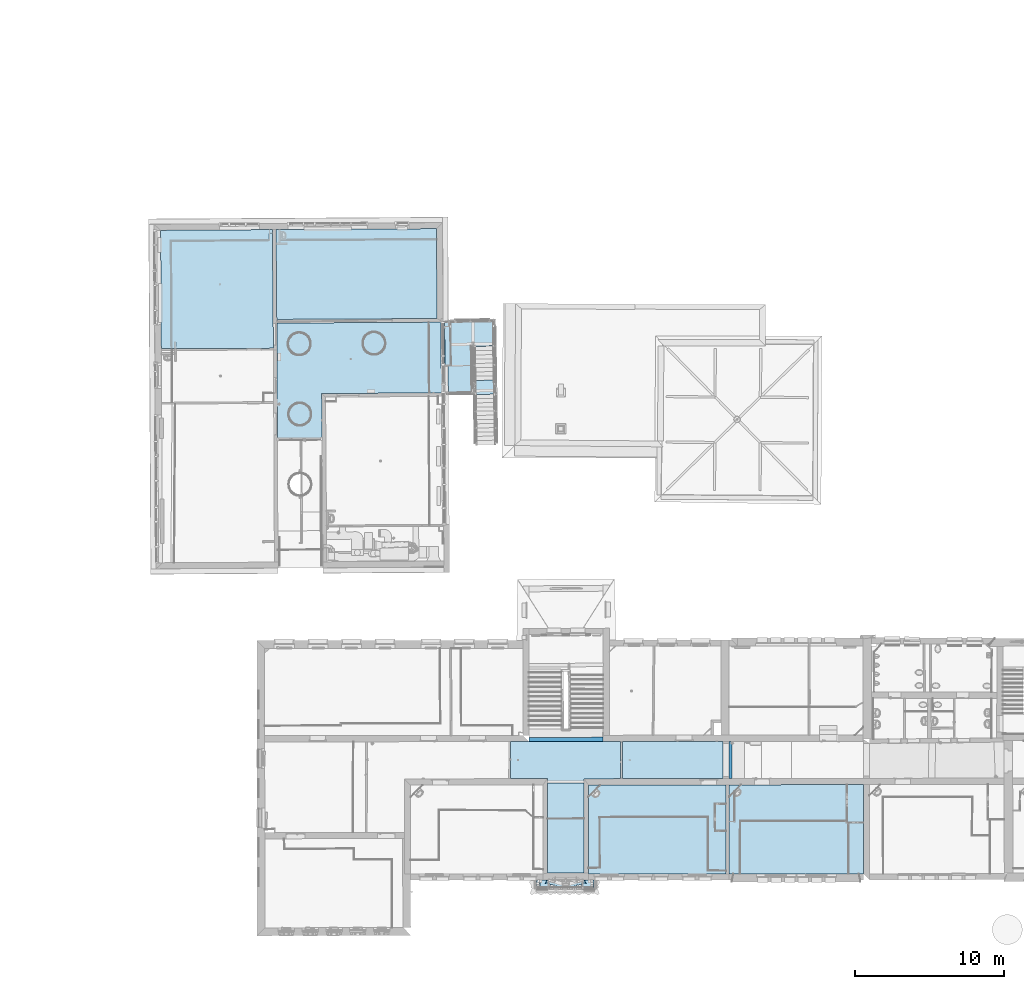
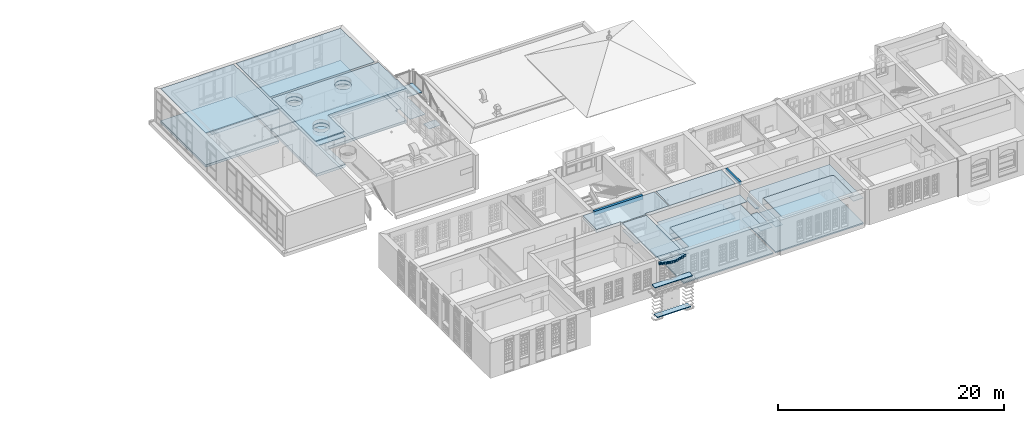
# One storey, part 11 of 158: 29 slabs.
"""IFC2X3 building model written with IfcOpenShell, lengths in metres."""

from ifc_helpers import new_model, entity, si_unit, converted_unit, derived_unit, money_unit, point, direction, frame, frame_2d, origin_with_axes, place, context, subcontext, project, spatial, polyline, circle_curve, parameter, trimmed, segment, composite_curve, outline, extrude, material, layer, layer_set, layer_usage, type_object, element, save


model = new_model("IFC2X3")

# Units and contexts
model_context = context("Model", 3, precision=1e-05, world=origin_with_axes(), true_north=direction((0.0, 1.0)))
body_context = subcontext(model_context, "Body", "Model", "MODEL_VIEW")
ifc_project = project(units=[si_unit("LENGTHUNIT", "METRE"), si_unit("AREAUNIT", "SQUARE_METRE"), si_unit("VOLUMEUNIT", "CUBIC_METRE"), converted_unit("PLANEANGLEUNIT", "DEGREE", entity("IfcPlaneAngleMeasure", 0.0174532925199), si_unit("PLANEANGLEUNIT", "RADIAN"), dimensions=[0, 0, 0, 0, 0, 0, 0]), money_unit("EUR"), converted_unit("TIMEUNIT", "Year", entity("IfcTimeMeasure", 31556926.0), si_unit("TIMEUNIT", "SECOND"), dimensions=[0, 0, 1, 0, 0, 0, 0]), si_unit("MASSUNIT", "GRAM", prefix="KILO"), si_unit("THERMODYNAMICTEMPERATUREUNIT", "DEGREE_CELSIUS"), si_unit("LUMINOUSINTENSITYUNIT", "LUMEN"), si_unit("ENERGYUNIT", "JOULE", prefix="MEGA"), derived_unit("THERMALCONDUCTANCEUNIT", [(si_unit("POWERUNIT", "WATT"), 1), (si_unit("LENGTHUNIT", "METRE"), -1), (si_unit("THERMODYNAMICTEMPERATUREUNIT", "KELVIN"), -1)]), derived_unit("SPECIFICHEATCAPACITYUNIT", [(si_unit("ENERGYUNIT", "JOULE"), 1), (si_unit("MASSUNIT", "GRAM", prefix="KILO"), -1), (si_unit("THERMODYNAMICTEMPERATUREUNIT", "KELVIN"), -1)]), derived_unit("MASSDENSITYUNIT", [(si_unit("MASSUNIT", "GRAM", prefix="KILO"), 1), (si_unit("VOLUMEUNIT", "CUBIC_METRE"), -1)])], contexts=[model_context])

# Site, building, storey
site_placement = place(None, origin_with_axes())
site = spatial("IfcSite", under=ifc_project, at=site_placement, Name="Gelände", CompositionType="ELEMENT")
building_placement = place(site_placement, origin_with_axes())
building = spatial("IfcBuilding", under=site, at=building_placement, Name="Gebäude", CompositionType="ELEMENT")
storey_placement = place(building_placement, origin_with_axes())
storey = spatial("IfcBuildingStorey", under=building, at=storey_placement, Name="ERDGESCHOSS", CompositionType="ELEMENT", Elevation=0.0)

# Slabs
ifc_material_1 = material(Name="05_ALLGEMEIN - TRAGENDE BAUTEILE")
ifc_layer_1 = layer(ifc_material_1, 0.26, ventilated="UNKNOWN")
ifc_layer_set_1 = layer_set([ifc_layer_1], Name="05_ALLGEMEIN - TRAGENDE BAUTEILE 0.26")
ifc_layer_usage_1 = layer_usage(ifc_layer_set_1, "AXIS3", "NEGATIVE", 0.26)
slab_type_1 = type_object("IfcSlabType", Name="05_ALLGEMEIN - TRAGENDE BAUTEILE 260", PredefinedType="NOTDEFINED")
slab_1_placement = place(storey_placement, frame((-26.9582901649, 45.612280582, 1.32), z_axis=(0.0, 0.0, 1.0), x_axis=(1.0, 0.0, 0.0)))
element("IfcSlab", 1, at=slab_1_placement, inside=storey, type_object=slab_type_1, material=ifc_layer_usage_1, Name="Belag-006", PredefinedType="NOTDEFINED", context=body_context, shape_type="SweptSolid", body=[
    extrude(outline(polyline([(0.0, 0.0), (-0.0700644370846, 7.94403693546), (-7.55929296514, 7.89979306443), (-7.51277816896, -0.0313616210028), (0.0, 0.0)])), frame((0.0, 0.0, -0.26), z_axis=(0.0, 0.0, 1.0), x_axis=(1.0, 0.0, 0.0)), (0.0, 0.0, 1.0), 0.26),
])
ifc_layer_usage_2 = layer_usage(ifc_layer_set_1, "AXIS3", "NEGATIVE", 0.26)
slab_2_placement = place(storey_placement, frame((-26.7883577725, 53.5577353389, 1.32), z_axis=(0.0, 0.0, 1.0), x_axis=(1.0, 0.0, 0.0)))
element("IfcSlab", 2, at=slab_2_placement, inside=storey, type_object=slab_type_1, material=ifc_layer_usage_2, Name="Belag-006", PredefinedType="NOTDEFINED", context=body_context, shape_type="SweptSolid", body=[
    extrude(outline(polyline([(0.0, 0.0), (0.0535530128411, -6.07194076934), (7.78016718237, -6.01395359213), (7.77981222, -5.96665594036), (10.7837569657, -5.94965336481), (10.7555178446, 0.0635400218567), (0.0, 0.0)])), frame((0.0, 0.0, -0.26), z_axis=(0.0, 0.0, 1.0), x_axis=(1.0, 0.0, 0.0)), (0.0, 0.0, 1.0), 0.26),
])
ifc_layer_2 = layer(ifc_material_1, 0.03, ventilated="UNKNOWN")
ifc_layer_set_2 = layer_set([ifc_layer_2], Name="05_ALLGEMEIN - TRAGENDE BAUTEILE 0.03")
ifc_layer_usage_3 = layer_usage(ifc_layer_set_2, "AXIS3", "NEGATIVE", 0.03)
slab_type_2 = type_object("IfcSlabType", Name="05_ALLGEMEIN - TRAGENDE BAUTEILE 30", PredefinedType="NOTDEFINED")
slab_3_placement = place(storey_placement, frame((3.55648795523, 15.5505114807, 2.415), z_axis=(0.0, 0.0, 1.0), x_axis=(1.0, 0.0, 0.0)))
element("IfcSlab", 3, at=slab_3_placement, inside=storey, type_object=slab_type_2, material=ifc_layer_usage_3, Name="Belag-004", PredefinedType="NOTDEFINED", context=body_context, shape_type="SweptSolid", body=[
    extrude(outline(polyline([(0.0, 0.0), (-0.000408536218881, -1.64056563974), (0.382779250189, -1.64639142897), (0.376906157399, 0.378152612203), (0.0, 0.0)])), origin_with_axes(), (0.0, 0.0, 1.0), 0.03),
])
ifc_material_2 = material(Name="01_ALLGEMEIN - BAUTEIL")
ifc_layer_3 = layer(ifc_material_2, 0.05, ventilated="UNKNOWN")
ifc_layer_set_3 = layer_set([ifc_layer_3], Name="01_ALLGEMEIN - BAUTEIL 0.05")
ifc_layer_usage_4 = layer_usage(ifc_layer_set_3, "AXIS3", "NEGATIVE", 0.05)
slab_type_3 = type_object("IfcSlabType", Name="01_ALLGEMEIN - BAUTEIL 50", PredefinedType="NOTDEFINED")
slab_4_placement = place(storey_placement, frame((3.55520900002, 10.4145794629, 2.575), z_axis=(0.0, 0.0, 1.0), x_axis=(1.0, 0.0, 0.0)))
element("IfcSlab", 4, at=slab_4_placement, inside=storey, type_object=slab_type_3, material=ifc_layer_usage_4, Name="Belag-004", PredefinedType="NOTDEFINED", context=body_context, shape_type="SweptSolid", body=[
    extrude(outline(polyline([(0.0, 0.0), (0.29154492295, 2.18655204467e-05), (0.291544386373, -0.00018927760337), (0.753305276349, -0.000269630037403), (0.767418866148, 3.53286002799), (7.74479993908, 3.52988698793), (7.982647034, 3.31705834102), (7.97536165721, -0.00152642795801), (8.70299734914, -0.00165306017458), (8.70299734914, -0.0014114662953), (9.00226281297, -0.0012187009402), (8.99681333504, 5.97013152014), (0.819550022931, 5.95690918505), (0.378185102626, 5.51408464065), (0.384058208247, 3.4895405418), (0.000870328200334, 3.49536642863), (0.0, 0.0)])), origin_with_axes(), (0.0, 0.0, 1.0), 0.05),
])
ifc_layer_usage_5 = layer_usage(ifc_layer_set_3, "AXIS3", "NEGATIVE", 0.05)
slab_5_placement = place(storey_placement, frame((4.30851428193, 10.4143098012, 3.3), z_axis=(0.0, 0.0, 1.0), x_axis=(1.0, 0.0, 0.0)))
element("IfcSlab", 5, at=slab_5_placement, inside=storey, type_object=slab_type_3, material=ifc_layer_usage_5, Name="Belag-004", PredefinedType="NOTDEFINED", context=body_context, shape_type="SweptSolid", body=[
    extrude(outline(polyline([(0.0, 0.0), (7.22205640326, -0.00125677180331), (7.22934173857, 3.31732800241), (6.99149469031, 3.53015664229), (0.0141135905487, 3.53312971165), (0.0, 0.0)])), origin_with_axes(), (0.0, 0.0, 1.0), 0.05),
])
ifc_layer_usage_6 = layer_usage(ifc_layer_set_3, "AXIS3", "NEGATIVE", 0.05)
slab_6_placement = place(storey_placement, frame((-8.61574632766, 16.5072639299, 2.82), z_axis=(0.0, 0.0, 1.0), x_axis=(1.0, 0.0, 0.0)))
element("IfcSlab", 6, at=slab_6_placement, inside=storey, type_object=slab_type_3, material=ifc_layer_usage_6, Name="Belag-004", PredefinedType="NOTDEFINED", context=body_context, shape_type="SweptSolid", body=[
    extrude(outline(polyline([(0.0, 0.0), (0.0019458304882, -2.42468858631), (2.46810341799, -2.42061220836), (2.46767440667, 0.000832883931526), (0.0, 0.0)])), origin_with_axes(), (0.0, 0.0, 1.0), 0.05),
])
ifc_layer_usage_7 = layer_usage(ifc_layer_set_3, "AXIS3", "NEGATIVE", 0.05)
slab_7_placement = place(storey_placement, frame((-5.0897370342, 14.1854308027, 3.26), z_axis=(0.0, 0.0, 1.0), x_axis=(1.0, 0.0, 0.0)))
element("IfcSlab", 7, at=slab_7_placement, inside=storey, type_object=slab_type_3, material=ifc_layer_usage_7, Name="Belag-004", PredefinedType="NOTDEFINED", context=body_context, shape_type="SweptSolid", body=[
    extrude(outline(polyline([(0.0, 0.0), (0.00498205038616, -3.38054457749), (-0.7673213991, -3.39768137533), (-0.767251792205, -3.79055976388), (8.44494129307, -3.78986643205), (8.44499182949, -3.58691805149), (7.22351465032, -3.57670339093), (7.22673385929, 0.00363332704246), (0.0, 0.0)])), origin_with_axes(), (0.0, 0.0, 1.0), 0.05),
])
ifc_layer_usage_8 = layer_usage(ifc_layer_set_3, "AXIS3", "NEGATIVE", 0.05)
slab_8_placement = place(storey_placement, frame((-5.05487332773, 16.3562413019, 2.53), z_axis=(0.0, 0.0, 1.0), x_axis=(1.0, 0.0, 0.0)))
element("IfcSlab", 8, at=slab_8_placement, inside=storey, type_object=slab_type_3, material=ifc_layer_usage_8, Name="Belag-004", PredefinedType="NOTDEFINED", context=body_context, shape_type="SweptSolid", body=[
    extrude(outline(polyline([(0.0, 0.0), (-0.803027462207, -0.814024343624), (-0.802185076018, -5.568491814), (-0.0298817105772, -5.55135505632), (-0.0348636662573, -2.17081053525), (7.19187009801, -2.16717722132), (7.1886509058, -5.74751391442), (8.41012818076, -5.75772855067), (8.41079234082, -3.09045541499), (7.67233505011, -3.10463922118), (7.66265646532, -1.24125117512), (8.41125314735, -1.23975588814), (8.41156524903, 0.0136012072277), (0.0, 0.0)])), origin_with_axes(), (0.0, 0.0, 1.0), 0.05),
])
ifc_layer_usage_9 = layer_usage(ifc_layer_set_3, "AXIS3", "NEGATIVE", 0.05)
slab_9_placement = place(storey_placement, frame((-33.8289176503, 52.7972375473, 4.325), z_axis=(0.0, 0.0, 1.0), x_axis=(1.0, 0.0, 0.0)))
element("IfcSlab", 9, at=slab_9_placement, inside=storey, type_object=slab_type_3, material=ifc_layer_usage_9, Name="Belag-004", PredefinedType="NOTDEFINED", context=body_context, shape_type="SweptSolid", body=[
    extrude(outline(polyline([(0.0, 0.0), (0.0442676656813, -7.21345317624), (0.241467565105, -7.21262998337), (0.235151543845, -6.76741268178), (0.340141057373, -6.76592317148), (0.346471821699, -7.21219160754), (6.87062749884, -7.1849570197), (6.80270562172, 0.516151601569), (6.58159707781, 0.508952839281), (6.57646925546, 0.0609441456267), (0.0, 0.0)])), origin_with_axes(), (0.0, 0.0, 1.0), 0.05),
])
ifc_layer_usage_10 = layer_usage(ifc_layer_set_3, "AXIS3", "NEGATIVE", 0.05)
slab_10_placement = place(storey_placement, frame((-26.7795419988, 52.5581865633, 4.335), z_axis=(0.0, 0.0, 1.0), x_axis=(1.0, 0.0, 0.0)))
element("IfcSlab", 10, at=slab_10_placement, inside=storey, type_object=slab_type_3, material=ifc_layer_usage_10, Name="Belag-004", PredefinedType="NOTDEFINED", context=body_context, shape_type="SweptSolid", body=[
    extrude(outline(polyline([(0.0, 0.0), (0.0441944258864, -5.01084153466), (10.774941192, -4.9501045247), (10.7500018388, 0.360436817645), (0.271699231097, 0.300712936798), (0.270704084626, 0.103987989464), (0.737544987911, 0.102241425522), (0.737152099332, -0.00275792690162), (0.0, 0.0)])), origin_with_axes(), (0.0, 0.0, 1.0), 0.05),
])
ifc_layer_usage_11 = layer_usage(ifc_layer_set_3, "AXIS3", "NEGATIVE", 0.05)
slab_11_placement = place(storey_placement, frame((-16.5401608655, 47.3550466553, 4.335), z_axis=(0.0, 0.0, 1.0), x_axis=(1.0, 0.0, 0.0)))
element("IfcSlab", 11, at=slab_11_placement, inside=storey, type_object=slab_type_3, material=ifc_layer_usage_11, Name="Belag-004", PredefinedType="NOTDEFINED", context=body_context, shape_type="SweptSolid", body=[
    extrude(outline(polyline([(0.0, 0.0), (-10.1929818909, -0.0576931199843), (-10.150307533, -7.93562496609), (-7.16169094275, -7.91724332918), (-7.18476073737, -4.78410736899), (0.0357691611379, -4.73388693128), (0.0, 0.0)]), holes=[composite_curve([segment(trimmed(circle_curve(frame_2d((-8.68273641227, -1.45261230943), x_axis=(1.0, 0.0)), 0.742022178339), [point((-9.42475859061, -1.45261230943)), parameter(180.0)], [point((-7.94071423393, -1.45261230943)), parameter(0.0)], False, "CARTESIAN"), True, "CONTINUOUS"), segment(trimmed(circle_curve(frame_2d((-8.68273641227, -1.45261230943), x_axis=(-1.0, 0.0)), 0.742022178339), [point((-7.94071423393, -1.45261230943)), parameter(180.0)], [point((-9.42475859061, -1.45261230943)), parameter(0.0)], False, "CARTESIAN"), True, "CONTINUOUS")], self_intersect=False), composite_curve([segment(trimmed(circle_curve(frame_2d((-8.64550168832, -6.16345421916), x_axis=(1.0, 0.0)), 0.742621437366), [point((-9.38812312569, -6.16345421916)), parameter(180.0)], [point((-7.90288025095, -6.16345421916)), parameter(0.0)], False, "CARTESIAN"), True, "CONTINUOUS"), segment(trimmed(circle_curve(frame_2d((-8.64550168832, -6.16345421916), x_axis=(-1.0, 0.0)), 0.742621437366), [point((-7.90288025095, -6.16345421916)), parameter(180.0)], [point((-9.38812312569, -6.16345421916)), parameter(0.0)], False, "CARTESIAN"), True, "CONTINUOUS")], self_intersect=False), composite_curve([segment(trimmed(circle_curve(frame_2d((-3.67712122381, -1.41695231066), x_axis=(1.0, 0.0)), 0.742305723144), [point((-4.41942694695, -1.41695231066)), parameter(180.0)], [point((-2.93481550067, -1.41695231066)), parameter(0.0)], False, "CARTESIAN"), True, "CONTINUOUS"), segment(trimmed(circle_curve(frame_2d((-3.67712122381, -1.41695231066), x_axis=(-1.0, 0.0)), 0.742305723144), [point((-2.93481550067, -1.41695231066)), parameter(180.0)], [point((-4.41942694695, -1.41695231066)), parameter(0.0)], False, "CARTESIAN"), True, "CONTINUOUS")], self_intersect=False)]), origin_with_axes(), (0.0, 0.0, 1.0), 0.05),
])
ifc_layer_4 = layer(ifc_material_1, 0.32, ventilated="UNKNOWN")
ifc_layer_set_4 = layer_set([ifc_layer_4], Name="05_ALLGEMEIN - TRAGENDE BAUTEILE 0.32")
ifc_layer_usage_12 = layer_usage(ifc_layer_set_4, "AXIS3", "NEGATIVE", 0.32)
slab_type_4 = type_object("IfcSlabType", Name="05_ALLGEMEIN - TRAGENDE BAUTEILE 320", PredefinedType="NOTDEFINED")
slab_12_placement = place(storey_placement, frame((-3.58523431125, 16.7786181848, 3.28), z_axis=(0.0, 0.0, 1.0), x_axis=(1.0, 0.0, 0.0)))
element("IfcSlab", 12, at=slab_12_placement, inside=storey, type_object=slab_type_4, material=ifc_layer_usage_12, Name="Belag-004", PredefinedType="NOTDEFINED", context=body_context, shape_type="SweptSolid", body=[
    extrude(outline(polyline([(0.0, 0.0), (6.7278867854, 0.0108786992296), (6.72387414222, 2.49984492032), (0.0167055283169, 2.49789228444), (0.0, 0.0)])), origin_with_axes(), (0.0, 0.0, 1.0), 0.32),
])
ifc_layer_usage_13 = layer_usage(ifc_layer_set_4, "AXIS3", "NEGATIVE", 0.32)
slab_13_placement = place(storey_placement, frame((3.76448366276, 19.2786453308, 3.28), z_axis=(0.0, 0.0, 1.0), x_axis=(1.0, 0.0, 0.0)))
element("IfcSlab", 13, at=slab_13_placement, inside=storey, type_object=slab_type_4, material=ifc_layer_usage_13, Name="Belag-005", PredefinedType="NOTDEFINED", context=body_context, shape_type="SweptSolid", body=[
    extrude(outline(polyline([(0.0, 0.0), (-0.20229089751, -5.88846787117e-05), (-0.198279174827, -2.4884635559), (0.000731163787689, -2.48814176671), (0.0, 0.0)])), origin_with_axes(), (0.0, 0.0, 1.0), 0.32),
])
ifc_layer_5 = layer(ifc_material_1, 0.09, ventilated="UNKNOWN")
ifc_layer_set_5 = layer_set([ifc_layer_5], Name="05_ALLGEMEIN - TRAGENDE BAUTEILE 0.09")
ifc_layer_usage_14 = layer_usage(ifc_layer_set_5, "AXIS3", "NEGATIVE", 0.09)
slab_type_5 = type_object("IfcSlabType", Name="05_ALLGEMEIN - TRAGENDE BAUTEILE 90", PredefinedType="NOTDEFINED")
slab_14_placement = place(storey_placement, frame((-26.9582901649, 45.612280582, 4.71), z_axis=(0.0, 0.0, 1.0), x_axis=(1.0, 0.0, 0.0)))
element("IfcSlab", 14, at=slab_14_placement, inside=storey, type_object=slab_type_5, material=ifc_layer_usage_14, Name="Belag-004", PredefinedType="NOTDEFINED", context=body_context, shape_type="SweptSolid", body=[
    extrude(outline(polyline([(0.0, 0.0), (-0.0700644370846, 7.94403693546), (-7.55929296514, 7.89979306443), (-7.51277816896, -0.0313616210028), (0.0, 0.0)])), origin_with_axes(), (0.0, 0.0, 1.0), 0.09),
])
ifc_layer_usage_15 = layer_usage(ifc_layer_set_5, "AXIS3", "NEGATIVE", 0.09)
slab_15_placement = place(storey_placement, frame((-9.11592115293, 9.9946257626, -2.1), z_axis=(0.0, 0.0, 1.0), x_axis=(1.0, 0.0, 0.0)))
element("IfcSlab", 15, at=slab_15_placement, inside=storey, type_object=slab_type_5, material=ifc_layer_usage_15, Name="Belag-015", PredefinedType="NOTDEFINED", context=body_context, shape_type="SweptSolid", body=[
    extrude(outline(polyline([(0.0, 0.0), (0.00278726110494, -0.586234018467), (3.4474921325, -0.597278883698), (3.43980705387, 0.000258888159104), (0.0, 0.0)])), frame((0.0, 0.0, -0.09), z_axis=(0.0, 0.0, 1.0), x_axis=(1.0, 0.0, 0.0)), (0.0, 0.0, 1.0), 0.09),
])
ifc_layer_6 = layer(ifc_material_1, 0.250000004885, ventilated="UNKNOWN")
ifc_layer_set_6 = layer_set([ifc_layer_6], Name="05_ALLGEMEIN - TRAGENDE BAUTEILE 0.25")
ifc_layer_usage_16 = layer_usage(ifc_layer_set_6, "AXIS3", "NEGATIVE", 0.25)
slab_type_6 = type_object("IfcSlabType", Name="05_ALLGEMEIN - TRAGENDE BAUTEILE 250", PredefinedType="NOTDEFINED")
slab_16_placement = place(storey_placement, frame((-8.76854401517, 9.76915901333, 3.1571805), z_axis=(0.0, 0.0, 1.0), x_axis=(1.0, 0.0, 0.0)))
element("IfcSlab", 16, at=slab_16_placement, inside=storey, type_object=slab_type_6, material=ifc_layer_usage_16, Name="Belag-013", PredefinedType="NOTDEFINED", context=body_context, shape_type="SweptSolid", body=[
    extrude(outline(polyline([(0.0, 0.0), (0.166645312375, 0.0243361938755), (0.215871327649, -0.0222883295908), (0.310965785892, -0.0218137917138), (0.338152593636, -0.139180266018), (0.451860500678, -0.0610586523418), (0.533807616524, -0.12720175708), (0.649562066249, -0.118963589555), (0.674736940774, -0.248625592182), (0.768898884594, -0.14934871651), (0.841410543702, -0.214574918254), (0.948902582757, -0.199084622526), (0.976399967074, -0.314665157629), (1.09803166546, -0.236637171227), (1.21144502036, -0.307197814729), (1.3300250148, -0.266102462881), (1.38579928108, -0.382553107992), (1.44157354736, -0.266102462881), (1.5601535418, -0.307197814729), (1.6735668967, -0.236637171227), (1.79519859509, -0.314665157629), (1.8226959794, -0.199084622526), (1.93018801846, -0.214574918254), (2.00269967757, -0.14934871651), (2.09686162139, -0.248625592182), (2.12203649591, -0.118963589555), (2.23779094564, -0.12720175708), (2.31973806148, -0.0610586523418), (2.43344596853, -0.139180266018), (2.46063277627, -0.0218137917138), (2.55572723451, -0.0222883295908), (2.60495324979, 0.0243361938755), (2.77159856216, 0.0), (2.68142277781, 0.125351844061), (2.68776328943, 0.206279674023), (0.0838352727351, 0.206279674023), (0.0901757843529, 0.125351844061), (0.0, 0.0)])), origin_with_axes(), (0.0, 0.0, 1.0), 0.25),
])
ifc_layer_7 = layer(ifc_material_1, 0.14, ventilated="UNKNOWN")
ifc_layer_set_7 = layer_set([ifc_layer_7], Name="05_ALLGEMEIN - TRAGENDE BAUTEILE 0.14")
ifc_layer_usage_17 = layer_usage(ifc_layer_set_7, "AXIS3", "NEGATIVE", 0.14)
slab_type_7 = type_object("IfcSlabType", Name="05_ALLGEMEIN - TRAGENDE BAUTEILE 140", PredefinedType="NOTDEFINED")
slab_17_placement = place(storey_placement, frame((3.55520896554, 10.4144409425, -0.07), z_axis=(0.0, 0.0, 1.0), x_axis=(1.0, 0.0, 0.0)))
element("IfcSlab", 17, at=slab_17_placement, inside=storey, type_object=slab_type_7, material=ifc_layer_usage_17, Name="Belag-003", PredefinedType="NOTDEFINED", context=body_context, shape_type="SweptSolid", body=[
    extrude(outline(polyline([(0.0, 0.0), (9.00226329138, -0.0015666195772), (8.99681342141, 5.97027005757), (0.00148304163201, 5.95572484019), (0.0, 0.0)])), frame((0.0, 0.0, -0.14), z_axis=(0.0, 0.0, 1.0), x_axis=(1.0, 0.0, 0.0)), (0.0, 0.0, 1.0), 0.14),
])
ifc_layer_8 = layer(ifc_material_1, 0.1, ventilated="UNKNOWN")
ifc_layer_set_8 = layer_set([ifc_layer_8], Name="05_ALLGEMEIN - TRAGENDE BAUTEILE 0.1")
ifc_layer_usage_18 = layer_usage(ifc_layer_set_8, "AXIS3", "NEGATIVE", 0.1)
slab_type_8 = type_object("IfcSlabType", Name="05_ALLGEMEIN - TRAGENDE BAUTEILE 100", PredefinedType="NOTDEFINED")
slab_18_placement = place(storey_placement, frame((-26.7883577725, 53.557735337, 4.7), z_axis=(0.0, 0.0, 1.0), x_axis=(1.0, 0.0, 0.0)))
element("IfcSlab", 18, at=slab_18_placement, inside=storey, type_object=slab_type_8, material=ifc_layer_usage_18, Name="Belag-004", PredefinedType="NOTDEFINED", context=body_context, shape_type="SweptSolid", body=[
    extrude(outline(polyline([(0.0, 0.0), (0.0530100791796, -6.01039030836), (10.7837569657, -5.94965341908), (10.7555178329, 0.06353997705), (0.0, 0.0)])), origin_with_axes(), (0.0, 0.0, 1.0), 0.1),
])
ifc_layer_9 = layer(ifc_material_1, 0.13, ventilated="UNKNOWN")
ifc_layer_set_9 = layer_set([ifc_layer_9], Name="05_ALLGEMEIN - TRAGENDE BAUTEILE 0.13")
ifc_layer_usage_19 = layer_usage(ifc_layer_set_9, "AXIS3", "NEGATIVE", 0.13)
slab_type_9 = type_object("IfcSlabType", Name="05_ALLGEMEIN - TRAGENDE BAUTEILE 130", PredefinedType="NOTDEFINED")
slab_19_placement = place(storey_placement, frame((-5.85804478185, 16.3549425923, -0.08), z_axis=(0.0, 0.0, 1.0), x_axis=(1.0, 0.0, 0.0)))
element("IfcSlab", 19, at=slab_19_placement, inside=storey, type_object=slab_type_9, material=ifc_layer_usage_19, Name="Belag-003", PredefinedType="NOTDEFINED", context=body_context, shape_type="SweptSolid", body=[
    extrude(outline(polyline([(0.0, 0.0), (0.00105595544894, -5.9600715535), (9.21324904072, -5.95937822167), (9.21473670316, 0.0148998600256), (0.0, 0.0)])), frame((0.0, 0.0, -0.13), z_axis=(0.0, 0.0, 1.0), x_axis=(1.0, 0.0, 0.0)), (0.0, 0.0, 1.0), 0.13),
])
ifc_layer_10 = layer(ifc_material_1, 0.11, ventilated="UNKNOWN")
ifc_layer_set_10 = layer_set([ifc_layer_10], Name="05_ALLGEMEIN - TRAGENDE BAUTEILE 0.11")
ifc_layer_usage_20 = layer_usage(ifc_layer_set_10, "AXIS3", "NEGATIVE", 0.11)
slab_type_10 = type_object("IfcSlabType", Name="05_ALLGEMEIN - TRAGENDE BAUTEILE 110", PredefinedType="NOTDEFINED")
slab_20_placement = place(storey_placement, frame((-3.58523431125, 16.7786181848, -0.1), z_axis=(0.0, 0.0, 1.0), x_axis=(1.0, 0.0, 0.0)))
element("IfcSlab", 20, at=slab_20_placement, inside=storey, type_object=slab_type_10, material=ifc_layer_usage_20, Name="Belag-005", PredefinedType="NOTDEFINED", context=body_context, shape_type="SweptSolid", body=[
    extrude(outline(polyline([(0.0, 0.0), (6.7278867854, 0.0108786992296), (6.72387414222, 2.49984492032), (0.0167055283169, 2.49789228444), (0.0, 0.0)])), frame((0.0, 0.0, -0.11), z_axis=(0.0, 0.0, 1.0), x_axis=(1.0, 0.0, 0.0)), (0.0, 0.0, 1.0), 0.11),
])
ifc_layer_11 = layer(ifc_material_1, 0.39, ventilated="UNKNOWN")
ifc_layer_set_11 = layer_set([ifc_layer_11], Name="05_ALLGEMEIN - TRAGENDE BAUTEILE 0.39")
ifc_layer_usage_21 = layer_usage(ifc_layer_set_11, "AXIS3", "NEGATIVE", 0.39)
slab_type_11 = type_object("IfcSlabType", Name="05_ALLGEMEIN - TRAGENDE BAUTEILE 390", PredefinedType="NOTDEFINED")
slab_21_placement = place(storey_placement, frame((-9.84150632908, 19.5347093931, 3.21), z_axis=(0.0, 0.0, 1.0), x_axis=(1.0, 0.0, 0.0)))
element("IfcSlab", 21, at=slab_21_placement, inside=storey, type_object=slab_type_11, material=ifc_layer_usage_21, Name="Belag-004", PredefinedType="NOTDEFINED", context=body_context, shape_type="SweptSolid", body=[
    extrude(outline(polyline([(0.0, 0.0), (2.57273295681e-05, -0.273549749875), (4.96616795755, -0.258579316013), (4.96649424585, 0.0266807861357), (0.0, 0.0)])), origin_with_axes(), (0.0, 0.0, 1.0), 0.39),
])
ifc_layer_12 = layer(ifc_material_1, 0.34, ventilated="UNKNOWN")
ifc_layer_set_12 = layer_set([ifc_layer_12], Name="05_ALLGEMEIN - TRAGENDE BAUTEILE 0.34")
ifc_layer_usage_22 = layer_usage(ifc_layer_set_12, "AXIS3", "NEGATIVE", 0.34)
slab_type_12 = type_object("IfcSlabType", Name="05_ALLGEMEIN - TRAGENDE BAUTEILE 340", PredefinedType="NOTDEFINED")
slab_22_placement = place(storey_placement, frame((-11.0684491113, 19.2604025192, 3.26), z_axis=(0.0, 0.0, 1.0), x_axis=(1.0, 0.0, 0.0)))
element("IfcSlab", 22, at=slab_22_placement, inside=storey, type_object=slab_type_12, material=ifc_layer_usage_22, Name="Belag-004", PredefinedType="NOTDEFINED", context=body_context, shape_type="SweptSolid", body=[
    extrude(outline(polyline([(0.0, 0.0), (-0.0124795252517, -2.47916482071), (2.4524799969, -2.47552520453), (2.45260832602, -2.63543541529), (4.92046662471, -2.63599148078), (4.92032999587, -2.48592841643), (7.35321048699, -2.48199454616), (7.36991717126, 0.0160701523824), (6.18811073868, 0.015726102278), (1.2269685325, 0.000757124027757), (0.0, 0.0)])), origin_with_axes(), (0.0, 0.0, 1.0), 0.34),
])
ifc_layer_13 = layer(ifc_material_1, 0.085, ventilated="UNKNOWN")
ifc_layer_set_13 = layer_set([ifc_layer_13], Name="05_ALLGEMEIN - TRAGENDE BAUTEILE 0.085")
ifc_layer_usage_23 = layer_usage(ifc_layer_set_13, "AXIS3", "NEGATIVE", 0.085)
slab_type_13 = type_object("IfcSlabType", Name="05_ALLGEMEIN - TRAGENDE BAUTEILE 85", PredefinedType="NOTDEFINED")
slab_23_placement = place(storey_placement, frame((-26.7331427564, 47.2973535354, 4.715), z_axis=(0.0, 0.0, 1.0), x_axis=(1.0, 0.0, 0.0)))
element("IfcSlab", 23, at=slab_23_placement, inside=storey, type_object=slab_type_13, material=ifc_layer_usage_23, Name="Belag-004", PredefinedType="NOTDEFINED", context=body_context, shape_type="SweptSolid", body=[
    extrude(outline(polyline([(0.0, 0.0), (0.0417934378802, -7.67793348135), (3.02981835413, -7.65955548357), (3.00822115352, -4.72641424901), (11.1069447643, -4.67008577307), (11.0943552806, -3.03874501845), (11.0117041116, -3.03807991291), (10.9875807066, 0.0621906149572), (0.0, 0.0)]), holes=[composite_curve([segment(trimmed(circle_curve(frame_2d((1.51024547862, -1.39491918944), x_axis=(-1.0, 0.0)), 0.742022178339), [point((2.25226765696, -1.39491918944)), parameter(180.0)], [point((0.768223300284, -1.39491918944)), parameter(0.0)], False, "CARTESIAN"), True, "CONTINUOUS"), segment(trimmed(circle_curve(frame_2d((1.51024547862, -1.39491918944), x_axis=(1.0, 0.0)), 0.742022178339), [point((0.768223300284, -1.39491918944)), parameter(180.0)], [point((2.25226765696, -1.39491918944)), parameter(0.0)], False, "CARTESIAN"), True, "CONTINUOUS")], self_intersect=False), composite_curve([segment(trimmed(circle_curve(frame_2d((1.54748020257, -6.10576109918), x_axis=(1.0, 0.0)), 0.742621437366), [point((0.804858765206, -6.10576109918)), parameter(180.0)], [point((2.29010163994, -6.10576109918)), parameter(0.0)], False, "CARTESIAN"), True, "CONTINUOUS"), segment(trimmed(circle_curve(frame_2d((1.54748020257, -6.10576109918), x_axis=(-1.0, 0.0)), 0.742621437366), [point((2.29010163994, -6.10576109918)), parameter(180.0)], [point((0.804858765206, -6.10576109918)), parameter(0.0)], False, "CARTESIAN"), True, "CONTINUOUS")], self_intersect=False), composite_curve([segment(trimmed(circle_curve(frame_2d((6.51586066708, -1.35925919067), x_axis=(1.0, 0.0)), 0.742305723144), [point((5.77355494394, -1.35925919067)), parameter(180.0)], [point((7.25816639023, -1.35925919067)), parameter(0.0)], False, "CARTESIAN"), True, "CONTINUOUS"), segment(trimmed(circle_curve(frame_2d((6.51586066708, -1.35925919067), x_axis=(-1.0, 0.0)), 0.742305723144), [point((7.25816639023, -1.35925919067)), parameter(180.0)], [point((5.77355494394, -1.35925919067)), parameter(0.0)], False, "CARTESIAN"), True, "CONTINUOUS")], self_intersect=False)]), origin_with_axes(), (0.0, 0.0, 1.0), 0.085),
])
ifc_layer_14 = layer(ifc_material_1, 0.16, ventilated="UNKNOWN")
ifc_layer_set_14 = layer_set([ifc_layer_14], Name="05_ALLGEMEIN - TRAGENDE BAUTEILE 0.16")
ifc_layer_usage_24 = layer_usage(ifc_layer_set_14, "AXIS3", "NEGATIVE", 0.16)
slab_type_14 = type_object("IfcSlabType", Name="05_ALLGEMEIN - TRAGENDE BAUTEILE 160", PredefinedType="NOTDEFINED")
slab_24_placement = place(storey_placement, frame((-6.1480485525, 16.5044110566, 3.44), z_axis=(0.0, 0.0, 1.0), x_axis=(1.0, 0.0, 0.0)))
element("IfcSlab", 24, at=slab_24_placement, inside=storey, type_object=slab_type_14, material=ifc_layer_usage_24, Name="Belag-004", PredefinedType="NOTDEFINED", context=body_context, shape_type="SweptSolid", body=[
    extrude(outline(polyline([(0.0, 0.0), (-2.46769657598, 0.00135858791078), (-2.4628485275, -6.03974728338), (0.00104729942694, -6.03956183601), (0.0, 0.0)])), origin_with_axes(), (0.0, 0.0, 1.0), 0.16),
])
ifc_layer_15 = layer(ifc_material_1, 0.280439, ventilated="UNKNOWN")
ifc_layer_set_15 = layer_set([ifc_layer_15], Name="05_ALLGEMEIN - TRAGENDE BAUTEILE 0.280439")
ifc_layer_usage_25 = layer_usage(ifc_layer_set_15, "AXIS3", "NEGATIVE", 0.280439)
slab_type_15 = type_object("IfcSlabType", Name="05_ALLGEMEIN - TRAGENDE BAUTEILE 280", PredefinedType="NOTDEFINED")
slab_25_placement = place(storey_placement, frame((-19.0077415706, 47.4437822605, 1.340439), z_axis=(0.0, 0.0, 1.0), x_axis=(1.0, 0.0, 0.0)))
element("IfcSlab", 25, at=slab_25_placement, inside=storey, type_object=slab_type_15, material=ifc_layer_usage_25, Name="Belag-006", PredefinedType="NOTDEFINED", context=body_context, shape_type="SweptSolid", body=[
    extrude(outline(polyline([(0.0, 0.0), (-7.72618124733, -0.057983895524), (-7.68272682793, -8.02436057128), (-4.69411023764, -8.00597893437), (-4.71717998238, -4.8728429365), (3.38154357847, -4.81651449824), (3.36895409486, -3.18517374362), (3.28630292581, -3.18450863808), (3.28472883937, -2.98221158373), (3.41791696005, -2.9811807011), (3.41779278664, -2.95473941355), (3.53678674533, -2.95390192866), (3.51465240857, -0.0943061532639), (3.40436839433, -0.0961707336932), (3.40430857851, -0.0834336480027), (0.000610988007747, -0.102698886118), (0.0, 0.0)])), frame((0.0, 0.0, -0.280439), z_axis=(0.0, 0.0, 1.0), x_axis=(1.0, 0.0, 0.0)), (0.0, 0.0, 1.0), 0.280439),
])
ifc_material_3 = material(Name="54_Metall, Edelstahl")
ifc_layer_16 = layer(ifc_material_3, 0.03, ventilated="UNKNOWN")
ifc_layer_set_16 = layer_set([ifc_layer_16], Name="54_Metall, Edelstahl 0.03")
ifc_layer_usage_26 = layer_usage(ifc_layer_set_16, "AXIS3", "NEGATIVE", 0.03)
slab_type_16 = type_object("IfcSlabType", Name="54_Metall, Edelstahl 30", PredefinedType="NOTDEFINED")
slab_26_placement = place(storey_placement, frame((-13.4089579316, 43.4571891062, -0.3), z_axis=(0.0, 0.0, 1.0), x_axis=(1.0, 0.0, 0.0)))
element("IfcSlab", 26, at=slab_26_placement, inside=storey, type_object=slab_type_16, material=ifc_layer_usage_26, Name="Belag-006", PredefinedType="NOTDEFINED", context=body_context, shape_type="SweptSolid", body=[
    extrude(outline(polyline([(0.0, 0.0), (0.0178550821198, -0.944697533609), (1.23763723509, -0.921643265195), (1.21978215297, 0.0230542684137), (0.0, 0.0)])), frame((0.0, 0.0, -0.03), z_axis=(0.0, 0.0, 1.0), x_axis=(1.0, 0.0, 0.0)), (0.0, 0.0, 1.0), 0.03),
])
ifc_layer_usage_27 = layer_usage(ifc_layer_set_16, "AXIS3", "NEGATIVE", 0.03)
slab_27_placement = place(storey_placement, frame((-15.0988230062, 47.3561419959, 1.315), z_axis=(0.0, 0.0, 1.0), x_axis=(1.0, 0.0, 0.0)))
element("IfcSlab", 27, at=slab_27_placement, inside=storey, type_object=slab_type_16, material=ifc_layer_usage_27, Name="Belag-006", PredefinedType="NOTDEFINED", context=body_context, shape_type="SweptSolid", body=[
    extrude(outline(polyline([(0.0, 0.0), (0.0227835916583, -2.88201895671), (-0.161606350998, -2.88347206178), (-0.147454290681, -4.7164349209), (1.41270693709, -4.69426146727), (1.36836397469, -1.57421657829), (1.60818013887, -1.57139284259), (1.60818013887, -1.62538864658), (2.86101043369, -1.60715957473), (2.86101043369, 0.0483713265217), (0.0, 0.0)])), frame((0.0, 0.0, -0.03), z_axis=(0.0, 0.0, 1.0), x_axis=(1.0, 0.0, 0.0)), (0.0, 0.0, 1.0), 0.03),
])
ifc_layer_usage_28 = layer_usage(ifc_layer_set_16, "AXIS3", "NEGATIVE", 0.03)
slab_28_placement = place(storey_placement, frame((-15.1188201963, 47.3558038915, 1.315), z_axis=(0.0, 0.0, 1.0), x_axis=(1.0, 0.0, 0.0)))
element("IfcSlab", 28, at=slab_28_placement, inside=storey, type_object=slab_type_16, material=ifc_layer_usage_28, Name="Belag-006", PredefinedType="NOTDEFINED", context=body_context, shape_type="SweptSolid", body=[
    extrude(outline(polyline([(0.0, 0.0), (-0.374268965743, -0.00632778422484), (-0.352134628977, -2.86592355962), (0.0426385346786, -2.86314510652), (0.0, 0.0)])), frame((0.0, 0.0, -0.03), z_axis=(0.0, 0.0, 1.0), x_axis=(1.0, 0.0, 0.0)), (0.0, 0.0, 1.0), 0.03),
])
ifc_material_4 = material(Name="29_Dach, Dachziegel rot")
ifc_layer_17 = layer(ifc_material_4, 0.0788642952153, ventilated="UNKNOWN")
ifc_layer_set_17 = layer_set([ifc_layer_17], Name="29_Dach, Dachziegel rot 0.0788643")
ifc_layer_usage_29 = layer_usage(ifc_layer_set_17, "AXIS3", "NEGATIVE", 0.0788642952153)
slab_type_17 = type_object("IfcSlabType", Name="29_Dach, Dachziegel rot 79", PredefinedType="ROOF")
slab_29_placement = place(storey_placement, frame((-5.4356958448, 9.43261112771, 1.089946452), z_axis=(0.0, 0.0, 1.0), x_axis=(-0.999961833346, 0.00873681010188, 0.0)))
element("IfcSlab", 29, at=slab_29_placement, inside=storey, type_object=slab_type_17, material=ifc_layer_usage_29, Name="Dach-017", PredefinedType="ROOF", context=body_context, shape_type="SweptSolid", body=[
    extrude(outline(polyline([(3.91571936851, -0.518836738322), (3.91070030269, 0.0304989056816), (0.0656644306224, 0.0197352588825), (0.0709054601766, -0.553894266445), (3.91571936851, -0.518836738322)])), frame((0.0, 0.0, 0.0), z_axis=(0.0, 0.0606606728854, 0.998158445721), x_axis=(1.0, 0.0, 0.0)), (0.0, 0.0, 1.0), 0.0788642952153),
])

save(model, "model.ifc")
